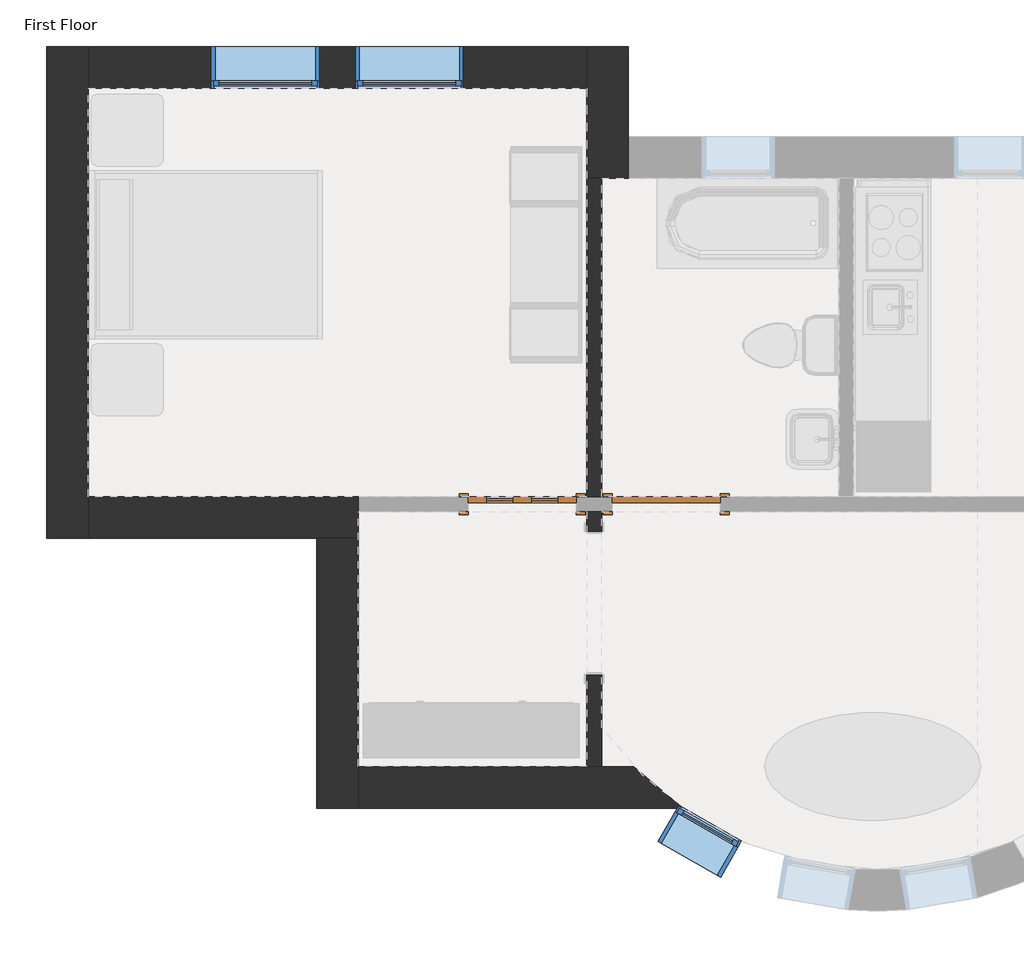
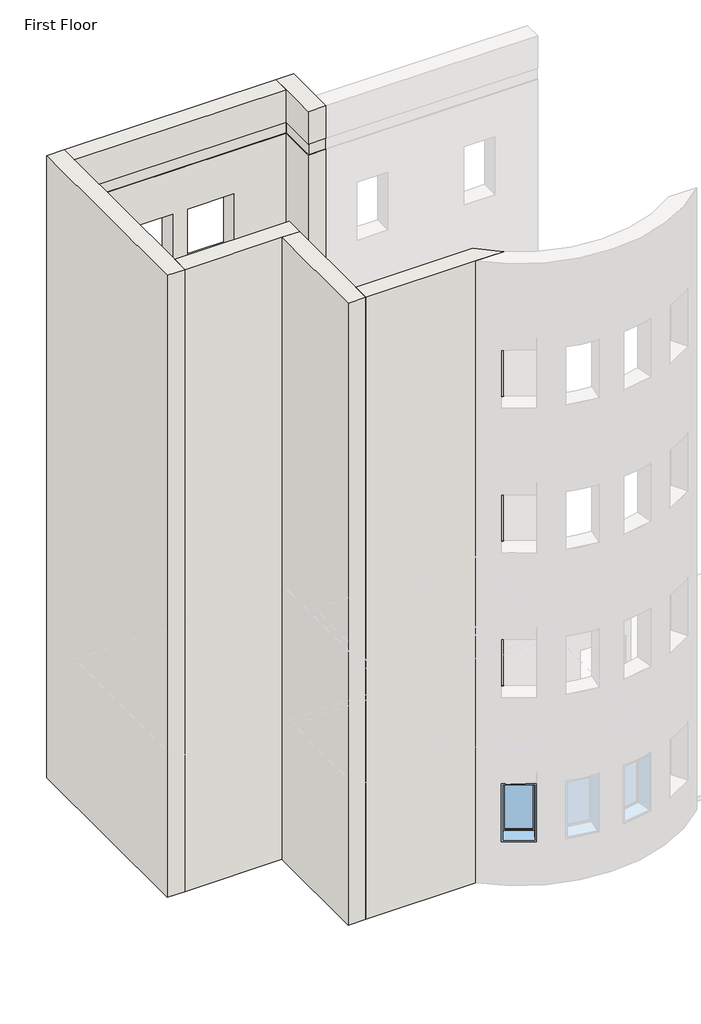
# One storey, part 1 of 3: 8 walls, 3 windows, 2 doors.
"""IFC4 building model written with IfcOpenShell, lengths in millimetres."""

import ifcopenshell
import ifcopenshell.guid

model = None  # the IFC model being written
_history = None  # IfcOwnerHistory: only IFC2X3 demands one
_inside = {}  # id of a spatial element -> (the spatial element, [elements in it])
_under = {}  # id of a project, library or spatial element -> (it, [spatial elements below it])
_declared = {}  # id of a project -> (the project, [libraries it declares])
_typed = {}  # id of a type object -> (the type object, [elements of that type])
_made_of = {}  # id of a material, layer set ... -> (it, [elements and type objects made of it])


def new_model(schema):
    """Start an empty IFC model of exactly this schema.

    Asked for "IFC4X3", IfcOpenShell would pick the latest addendum, in which some entities
    have other attributes; the version numbers below select the first issue.
    IFC2X3 requires an IfcOwnerHistory on every rooted entity: one is made here for all.
    """
    global model, _history
    if schema == "IFC4X3":
        model = ifcopenshell.file(schema_version=(4, 3, 0, 0))
    else:
        model = ifcopenshell.file(schema=schema)
    _inside.clear()
    _under.clear()
    _declared.clear()
    _typed.clear()
    _made_of.clear()
    _history = None
    if model.schema == "IFC2X3":
        org = make("IfcOrganization", Name="unknown")
        user = make(
            "IfcPersonAndOrganization",
            ThePerson=make("IfcPerson", FamilyName="unknown"),
            TheOrganization=org,
        )
        app = make(
            "IfcApplication",
            ApplicationDeveloper=org,
            Version="unknown",
            ApplicationFullName="unknown",
            ApplicationIdentifier="unknown",
        )
        _history = make(
            "IfcOwnerHistory",
            OwningUser=user,
            OwningApplication=app,
            ChangeAction="ADDED",
            CreationDate=0,
        )
    return model


def make(cls, **values):
    """One entity of the class cls with the attributes given. An attribute that is None is left unset."""
    return model.create_entity(
        cls, **{name: value for name, value in values.items() if value is not None}
    )


def rooted(cls, **values):
    """An entity with a GlobalId (a new one), such as an element, a storey or a relation."""
    return make(cls, GlobalId=ifcopenshell.guid.new(), OwnerHistory=_history, **values)


def si_unit(unit_type, name, prefix=None):
    """IfcSIUnit, for example si_unit("LENGTHUNIT", "METRE", prefix="MILLI")."""
    return make("IfcSIUnit", UnitType=unit_type, Prefix=prefix, Name=name)


def assignment(units):
    """IfcUnitAssignment: the units of a project."""
    return None if units is None else make("IfcUnitAssignment", Units=units)


def point(xyz):
    """IfcCartesianPoint."""
    return None if xyz is None else make("IfcCartesianPoint", Coordinates=xyz)


def direction(xyz):
    """IfcDirection."""
    return None if xyz is None else make("IfcDirection", DirectionRatios=xyz)


def frame(location, z_axis=None, x_axis=None):
    """IfcAxis2Placement3D, a coordinate frame: its origin and axes. An axis left out is left unset."""
    return make(
        "IfcAxis2Placement3D",
        Location=point(location),
        Axis=direction(z_axis),
        RefDirection=direction(x_axis),
    )


def frame_2d(location, x_axis=None):
    """IfcAxis2Placement2D, a coordinate frame in the plane: its origin and x axis."""
    return make(
        "IfcAxis2Placement2D", Location=point(location), RefDirection=direction(x_axis)
    )


def origin():
    """The frame at (0, 0, 0) with its axes left unset."""
    return frame((0.0, 0.0, 0.0))


def origin_with_axes():
    """The frame at (0, 0, 0) with the z axis (0, 0, 1) and the x axis (1, 0, 0) written out."""
    return frame((0.0, 0.0, 0.0), z_axis=(0.0, 0.0, 1.0), x_axis=(1.0, 0.0, 0.0))


def place(relative_to, where):
    """IfcLocalPlacement: puts the frame where relative to a parent placement (None: the world)."""
    return make(
        "IfcLocalPlacement", PlacementRelTo=relative_to, RelativePlacement=where
    )


def context(
    kind, dimensions, precision=None, world=None, true_north=None, identifier=None
):
    """IfcGeometricRepresentationContext, for example the 3D "Model" context."""
    return make(
        "IfcGeometricRepresentationContext",
        ContextIdentifier=identifier,
        ContextType=kind,
        CoordinateSpaceDimension=dimensions,
        Precision=precision,
        WorldCoordinateSystem=world,
        TrueNorth=true_north,
    )


def project(units=None, contexts=None):
    """IfcProject with its units and contexts."""
    return rooted(
        "IfcProject",
        Name="project",
        RepresentationContexts=contexts,
        UnitsInContext=assignment(units),
    )


def spatial(cls, under=None, at=None, **own):
    """A site, building, storey or space (cls), placed at a placement, below another one or the project."""
    s = rooted(cls, ObjectPlacement=at, **own)
    if under is not None:
        _under.setdefault(under.id(), (under, []))[1].append(s)
    return s


def polyline(points):
    """IfcPolyline through the points."""
    return make("IfcPolyline", Points=[point(p) for p in points])


def circle_curve(where, radius):
    """IfcCircle in the frame where."""
    return make("IfcCircle", Position=where, Radius=radius)


def trimmed(basis, trim1, trim2, sense, master):
    """IfcTrimmedCurve: the piece of a basis curve between two trims."""
    return make(
        "IfcTrimmedCurve",
        BasisCurve=basis,
        Trim1=trim1,
        Trim2=trim2,
        SenseAgreement=sense,
        MasterRepresentation=master,
    )


def segment(curve, same_sense, transition):
    """IfcCompositeCurveSegment."""
    return make(
        "IfcCompositeCurveSegment",
        Transition=transition,
        SameSense=same_sense,
        ParentCurve=curve,
    )


def composite_curve(segments, self_intersect=None):
    """IfcCompositeCurve: segments joined end to end."""
    return make("IfcCompositeCurve", Segments=segments, SelfIntersect=self_intersect)


def outline(outer, holes=None, kind="AREA"):
    """IfcArbitraryClosedProfileDef: a profile drawn as a closed curve; with holes, ...WithVoids."""
    if holes is None:
        return make("IfcArbitraryClosedProfileDef", ProfileType=kind, OuterCurve=outer)
    return make(
        "IfcArbitraryProfileDefWithVoids",
        ProfileType=kind,
        OuterCurve=outer,
        InnerCurves=holes,
    )


def extrude(swept, where, along, depth):
    """IfcExtrudedAreaSolid: the profile swept, set in the frame where, extruded along a direction by depth."""
    return make(
        "IfcExtrudedAreaSolid",
        SweptArea=swept,
        Position=where,
        ExtrudedDirection=direction(along),
        Depth=depth,
    )


def faces_of(points, faces, orient=None, outer=None):
    """IfcFace entities. A face is a list of loops; a loop is a list of indices into points, from 0.

    orient and outer hold one flag for each loop. By default every Orientation is true, the
    first loop of a face is its IfcFaceOuterBound and the others are IfcFaceBound.
    """
    made = []
    for i, loops in enumerate(faces):
        bounds = []
        for j, loop in enumerate(loops):
            is_outer = j == 0 if outer is None else outer[i][j]
            bounds.append(
                make(
                    "IfcFaceOuterBound" if is_outer else "IfcFaceBound",
                    Bound=make("IfcPolyLoop", Polygon=[points[k] for k in loop]),
                    Orientation=True if orient is None else orient[i][j],
                )
            )
        made.append(make("IfcFace", Bounds=bounds))
    return made


def faceted_brep(points, faces, orient=None, outer=None, voids=None):
    """IfcFacetedBrep: a solid bounded by flat faces; with voids (closed shells), ...WithVoids."""
    shared = [point(p) for p in points]
    hull = make("IfcClosedShell", CfsFaces=faces_of(shared, faces, orient, outer))
    if voids is None:
        return make("IfcFacetedBrep", Outer=hull)
    return make(
        "IfcFacetedBrepWithVoids",
        Outer=hull,
        Voids=[
            make(cls, CfsFaces=faces_of(shared, fs, o, b)) for cls, fs, o, b in voids
        ],
    )


def shape(context_of_items, identifier, shape_type, items):
    """IfcShapeRepresentation: the items that make up one representation, for example the "Body"."""
    return make(
        "IfcShapeRepresentation",
        ContextOfItems=context_of_items,
        RepresentationIdentifier=identifier,
        RepresentationType=shape_type,
        Items=items,
    )


def source(mapping_origin, context_of_items, identifier, shape_type, items):
    """IfcRepresentationMap: a shape defined once, which mapped items show again and again."""
    return make(
        "IfcRepresentationMap",
        MappingOrigin=mapping_origin,
        MappedRepresentation=shape(context_of_items, identifier, shape_type, items),
    )


def transform(
    local_origin,
    x_axis=None,
    y_axis=None,
    z_axis=None,
    scale=None,
    scale2=None,
    scale3=None,
    uniform=True,
):
    """IfcCartesianTransformationOperator3D, or its non-uniform kind. x_axis, y_axis, z_axis: its Axis1, 2, 3."""
    if uniform:
        return make(
            "IfcCartesianTransformationOperator3D",
            Axis1=direction(x_axis),
            Axis2=direction(y_axis),
            LocalOrigin=point(local_origin),
            Scale=scale,
            Axis3=direction(z_axis),
        )
    return make(
        "IfcCartesianTransformationOperator3DnonUniform",
        Axis1=direction(x_axis),
        Axis2=direction(y_axis),
        LocalOrigin=point(local_origin),
        Scale=scale,
        Axis3=direction(z_axis),
        Scale2=scale2,
        Scale3=scale3,
    )


def mapped(mapping_source, mapping_target):
    """IfcMappedItem: shows the shape of a source again, moved by a transform."""
    return make(
        "IfcMappedItem", MappingSource=mapping_source, MappingTarget=mapping_target
    )


def made_of(thing, what):
    """Note that an element or type object is made of a material, layer set ...; save() writes the relation."""
    if what is not None:
        _made_of.setdefault(what.id(), (what, []))[1].append(thing)
    return thing


def element(
    cls,
    number,
    at=None,
    inside=None,
    cuts=None,
    type_object=None,
    material=None,
    context=None,
    identifier="Body",
    shape_type=None,
    held_by="IfcProductDefinitionShape",
    body=None,
    shapes=None,
    **own,
):
    """One element of the class cls, such as IfcWall. Its Tag is "e" and its number.

    at: its placement. inside: the storey or other place that contains it. cuts: it is an
    opening in that element (IfcRelVoidsElement). A single representation is given by context,
    identifier, shape_type and body (its items); several are given by shapes. held_by: the class
    of the entity that holds the representations. save() writes the other relations.
    """
    e = rooted(cls, Tag="e%d" % number, ObjectPlacement=at, **own)
    if body is not None:
        shapes = [shape(context, identifier, shape_type, body)]
    if shapes is not None:
        e.Representation = make(held_by, Representations=shapes)
    if inside is not None:
        _inside.setdefault(inside.id(), (inside, []))[1].append(e)
    if cuts is not None:
        rooted(
            "IfcRelVoidsElement", RelatingBuildingElement=cuts, RelatedOpeningElement=e
        )
    if type_object is not None:
        _typed.setdefault(type_object.id(), (type_object, []))[1].append(e)
    return made_of(e, material)


def aggregate(whole, parts):
    """IfcRelAggregates: a whole, such as a stair, and the parts it consists of."""
    return rooted("IfcRelAggregates", RelatingObject=whole, RelatedObjects=parts)


def save(model, path):
    """Write the relations noted so far, then the file.

    IfcRelAggregates (storeys below a building ...), IfcRelContainedInSpatialStructure (elements
    in a storey), IfcRelDefinesByType, IfcRelAssociatesMaterial and IfcRelDeclares: one each for
    every whole, place, type object, material and project.
    """
    for whole, parts in _under.values():
        aggregate(whole, parts)
    for where, things in _inside.values():
        rooted(
            "IfcRelContainedInSpatialStructure",
            RelatedElements=things,
            RelatingStructure=where,
        )
    for kind, things in _typed.values():
        rooted("IfcRelDefinesByType", RelatedObjects=things, RelatingType=kind)
    for what, things in _made_of.values():
        rooted("IfcRelAssociatesMaterial", RelatedObjects=things, RelatingMaterial=what)
    for by, libraries in _declared.values():
        rooted("IfcRelDeclares", RelatingContext=by, RelatedDefinitions=libraries)
    model.write(path)


def plane_surface(at):
    """IfcPlane: the flat surface through the origin of the frame at, square to its z axis."""
    return make("IfcPlane", Position=at)


def revolved_surface(curve, axis_point, axis_direction):
    """IfcSurfaceOfRevolution: the curve turned about the line through axis_point along axis_direction."""
    return make(
        "IfcSurfaceOfRevolution",
        SweptCurve=make("IfcArbitraryOpenProfileDef", ProfileType="CURVE", Curve=curve),
        AxisPosition=make("IfcAxis1Placement", Location=point(axis_point), Axis=direction(axis_direction)),
    )


def advanced_brep(points, edges, surfaces, faces):
    """IfcAdvancedBrep: a solid bounded by faces that lie on surfaces and meet in shared edges.

    An edge is (start, end): straight between two places in points (the first is 0);
    or (start, end, curve); or (start, end, curve, False) where it runs against its curve.
    A face is (place in surfaces, loops), or (place, loops, False) where it looks against
    its surface's normal. A loop lists edges by number (the first is 1), with a minus sign
    where the edge is run from its end to its start. The first loop is the outer one.
    """
    corners = [point(p) for p in points]
    vertices = [make("IfcVertexPoint", VertexGeometry=c) for c in corners]
    made = []
    for start, end, *more in edges:
        made.append(
            make(
                "IfcEdgeCurve",
                EdgeStart=vertices[start],
                EdgeEnd=vertices[end],
                EdgeGeometry=more[0] if more else make("IfcPolyline", Points=[corners[start], corners[end]]),
                SameSense=more[1] if len(more) > 1 else True,
            )
        )
    hull = []
    for where, loops, *sense in faces:
        bounds = []
        for j, loop in enumerate(loops):
            ring = [make("IfcOrientedEdge", EdgeElement=made[abs(k) - 1], Orientation=k > 0) for k in loop]
            bounds.append(
                make(
                    "IfcFaceOuterBound" if j == 0 else "IfcFaceBound",
                    Bound=make("IfcEdgeLoop", EdgeList=ring),
                    Orientation=True,
                )
            )
        hull.append(make("IfcAdvancedFace", Bounds=bounds, FaceSurface=surfaces[where], SameSense=sense[0] if sense else True))
    return make("IfcAdvancedBrep", Outer=make("IfcClosedShell", CfsFaces=hull))


def door_2e3b4da2(model_context):
    return source(origin(), model_context, "Body", "SweptSolid", [
        extrude(outline(polyline([(0.0, -457.2), (0.0, 457.2), (2133.6, 457.2), (2133.6, -457.2), (0.0, -457.2)]), holes=[polyline([(254.0, -76.2), (254.0, -304.8), (1219.2, -304.8), (1219.2, -76.2), (254.0, -76.2)]), polyline([(254.0, 304.8), (254.0, 76.2), (1219.2, 76.2), (1219.2, 304.8), (254.0, 304.8)]), polyline([(1371.6, 76.2), (1574.8, 76.2), (1574.8, 304.8), (1371.6, 304.8), (1371.6, 76.2)]), polyline([(1371.6, -304.8), (1574.8, -304.8), (1574.8, -76.2), (1371.6, -76.2), (1371.6, -304.8)]), composite_curve([segment(polyline([(1727.2, 304.8), (1727.2, -304.8)]), True, "CONTINUOUS"), segment(trimmed(circle_curve(frame_2d((1727.2, 0.0)), 304.8), [point((1727.2, -304.8))], [point((1727.2, 304.8))], True, "CARTESIAN"), True, "CONTINUOUS")], self_intersect=False)]), frame((0.0, 12.7, 0.0), z_axis=(0.0, 1.0, 0.0), x_axis=(0.0, 0.0, 1.0)), (0.0, 0.0, 1.0), 50.8),
        extrude(outline(polyline([(0.0, 457.2), (0.0, 533.4), (2209.8, 533.4), (2209.8, -533.4), (0.0, -533.4), (0.0, -457.2), (2133.6, -457.2), (2133.6, 457.2), (0.0, 457.2)])), frame((0.0, -88.9, 0.0), z_axis=(0.0, 1.0, 0.0), x_axis=(0.0, 0.0, 1.0)), (0.0, 0.0, 1.0), 25.4),
        extrude(outline(polyline([(2209.8, -533.4), (0.0, -533.4), (0.0, -457.2), (2133.6, -457.2), (2133.6, 457.2), (0.0, 457.2), (0.0, 533.4), (2209.8, 533.4), (2209.8, -533.4)])), frame((0.0, 63.5, 0.0), z_axis=(0.0, 1.0, 0.0), x_axis=(0.0, 0.0, 1.0)), (0.0, 0.0, 1.0), 25.4),
        extrude(outline(composite_curve([segment(polyline([(1727.2, -304.8), (1727.2, 304.8)]), True, "CONTINUOUS"), segment(trimmed(circle_curve(frame_2d((1727.2, 0.0)), 304.8), [point((1727.2, 304.8))], [point((1727.2, -304.8))], False, "CARTESIAN"), True, "CONTINUOUS")], self_intersect=False)), frame((0.0, 29.6333333, 0.0), z_axis=(0.0, 1.0, 0.0), x_axis=(0.0, 0.0, 1.0)), (0.0, 0.0, 1.0), 16.9333333),
        extrude(outline(polyline([(-304.8, 46.5666667), (-76.2, 46.5666667), (-76.2, 29.6333333), (-304.8, 29.6333333), (-304.8, 46.5666667)])), frame((0.0, 0.0, 254.0), z_axis=(0.0, 0.0, 1.0), x_axis=(1.0, 0.0, 0.0)), (0.0, 0.0, 1.0), 965.2),
        extrude(outline(polyline([(76.2, 46.5666667), (304.8, 46.5666667), (304.8, 29.6333333), (76.2, 29.6333333), (76.2, 46.5666667)])), frame((0.0, 0.0, 254.0), z_axis=(0.0, 0.0, 1.0), x_axis=(1.0, 0.0, 0.0)), (0.0, 0.0, 1.0), 965.2),
        extrude(outline(polyline([(76.2, 46.5666667), (304.8, 46.5666667), (304.8, 29.6333333), (76.2, 29.6333333), (76.2, 46.5666667)])), frame((0.0, 0.0, 1371.6), z_axis=(0.0, 0.0, 1.0), x_axis=(1.0, 0.0, 0.0)), (0.0, 0.0, 1.0), 203.2),
        extrude(outline(polyline([(-304.8, 46.5666667), (-76.2, 46.5666667), (-76.2, 29.6333333), (-304.8, 29.6333333), (-304.8, 46.5666667)])), frame((0.0, 0.0, 1371.6), z_axis=(0.0, 0.0, 1.0), x_axis=(1.0, 0.0, 0.0)), (0.0, 0.0, 1.0), 203.2),
    ])


def door_a3eb833a(model_context):
    return source(origin(), model_context, "Body", "SweptSolid", [
        extrude(outline(polyline([(2209.8, -533.4), (0.0, -533.4), (0.0, -457.2), (2133.6, -457.2), (2133.6, 457.2), (0.0, 457.2), (0.0, 533.4), (2209.8, 533.4), (2209.8, -533.4)])), frame((0.0, -88.9, 0.0), z_axis=(0.0, 1.0, 0.0), x_axis=(0.0, 0.0, 1.0)), (0.0, 0.0, 1.0), 25.4),
        extrude(outline(polyline([(2209.8, 533.4), (2209.8, -533.4), (0.0, -533.4), (0.0, -457.2), (2133.6, -457.2), (2133.6, 457.2), (0.0, 457.2), (0.0, 533.4), (2209.8, 533.4)])), frame((0.0, 63.5, 0.0), z_axis=(0.0, 1.0, 0.0), x_axis=(0.0, 0.0, 1.0)), (0.0, 0.0, 1.0), 25.4),
        extrude(outline(polyline([(457.2, -12.7), (457.2, -63.5), (-457.2, -63.5), (-457.2, -12.7), (457.2, -12.7)])), origin_with_axes(), (0.0, 0.0, 1.0), 2133.6),
    ])


def window_60baf983(model_context):
    return source(origin(), model_context, "Body", "SweptSolid", [
        extrude(outline(polyline([(203.2, 128.5875), (-279.4, 128.5875), (-279.4, 141.2875), (203.2, 141.2875), (203.2, 128.5875)])), frame((0.0, 0.0, 977.9), z_axis=(0.0, 0.0, 1.0), x_axis=(1.0, 0.0, 0.0)), (0.0, 0.0, 1.0), 1092.2),
        extrude(outline(polyline([(2114.55, -323.85), (933.45, -323.85), (933.45, 247.65), (2114.55, 247.65), (2114.55, -323.85)]), holes=[polyline([(2070.1, -279.4), (2070.1, 203.2), (977.9, 203.2), (977.9, -279.4), (2070.1, -279.4)])]), frame((0.0, 112.7125, 0.0), z_axis=(0.0, 1.0, 0.0), x_axis=(0.0, 0.0, 1.0)), (0.0, 0.0, 1.0), 44.45),
        extrude(outline(polyline([(2133.6, -342.9), (914.4, -342.9), (914.4, 266.7), (2133.6, 266.7), (2133.6, -342.9)]), holes=[polyline([(2101.85, -311.15), (2101.85, 234.95), (946.15, 234.95), (946.15, -311.15), (2101.85, -311.15)])]), frame((0.0, -176.2125, 0.0), z_axis=(0.0, 1.0, 0.0), x_axis=(0.0, 0.0, 1.0)), (0.0, 0.0, 1.0), 288.925),
        extrude(outline(polyline([(2133.6, 266.7), (2133.6, -342.9), (914.4, -342.9), (914.4, 266.7), (2133.6, 266.7)]), holes=[polyline([(2114.55, 247.65), (933.45, 247.65), (933.45, -323.85), (2114.55, -323.85), (2114.55, 247.65)])]), frame((0.0, 112.7125, 0.0), z_axis=(0.0, 1.0, 0.0), x_axis=(0.0, 0.0, 1.0)), (0.0, 0.0, 1.0), 63.5),
    ])


def window_15c49d37(model_context):
    return source(origin(), model_context, "Body", "SweptSolid", [
        extrude(outline(polyline([(355.6, 128.5875), (-431.8, 128.5875), (-431.8, 141.2875), (355.6, 141.2875), (355.6, 128.5875)])), frame((0.0, 0.0, 977.9), z_axis=(0.0, 0.0, 1.0), x_axis=(1.0, 0.0, 0.0)), (0.0, 0.0, 1.0), 1092.2),
        extrude(outline(polyline([(2114.55, -476.25), (933.45, -476.25), (933.45, 400.05), (2114.55, 400.05), (2114.55, -476.25)]), holes=[polyline([(2070.1, -431.8), (2070.1, 355.6), (977.9, 355.6), (977.9, -431.8), (2070.1, -431.8)])]), frame((0.0, 112.7125, 0.0), z_axis=(0.0, 1.0, 0.0), x_axis=(0.0, 0.0, 1.0)), (0.0, 0.0, 1.0), 44.45),
        extrude(outline(polyline([(2133.6, -495.3), (914.4, -495.3), (914.4, 419.1), (2133.6, 419.1), (2133.6, -495.3)]), holes=[polyline([(2101.85, -463.55), (2101.85, 387.35), (946.15, 387.35), (946.15, -463.55), (2101.85, -463.55)])]), frame((0.0, -176.2125, 0.0), z_axis=(0.0, 1.0, 0.0), x_axis=(0.0, 0.0, 1.0)), (0.0, 0.0, 1.0), 288.925),
        extrude(outline(polyline([(2133.6, 419.1), (2133.6, -495.3), (914.4, -495.3), (914.4, 419.1), (2133.6, 419.1)]), holes=[polyline([(2114.55, 400.05), (933.45, 400.05), (933.45, -476.25), (2114.55, -476.25), (2114.55, 400.05)])]), frame((0.0, 112.7125, 0.0), z_axis=(0.0, 1.0, 0.0), x_axis=(0.0, 0.0, 1.0)), (0.0, 0.0, 1.0), 63.5),
    ])


model = new_model("IFC4")

# Units and contexts
model_context = context("Model", 3, world=origin())
ifc_project = project(units=[si_unit("LENGTHUNIT", "METRE", prefix="MILLI")], contexts=[model_context])

# Site, building, storey
site = spatial("IfcSite", under=ifc_project)
building = spatial("IfcBuilding", under=site)
storey = spatial("IfcBuildingStorey", under=building, Name="First Floor", Elevation=0.0)

# Doors
placement = place(None, origin())
door_shape = door_2e3b4da2(model_context)
element("IfcDoor", 1, ObjectType="Single-Decorative 2 : 36\" x 84\"", at=placement, inside=storey, context=model_context, shape_type="MappedRepresentation", body=[
    mapped(door_shape, transform((-1342.3404149, 8869.7132581, 0.0), x_axis=(1.0, 0.0, 0.0), y_axis=(0.0, 1.0, 0.0), z_axis=(0.0, 0.0, 1.0))),
])
door_2_shape = door_a3eb833a(model_context)
element("IfcDoor", 2, ObjectType="Single-Flush : 36\" x 84\"", at=placement, inside=storey, context=model_context, shape_type="MappedRepresentation", body=[
    mapped(door_2_shape, transform((-123.1404149, 8869.7132581, 0.0), x_axis=(-1.0, 0.0, 0.0), y_axis=(0.0, -1.0, 0.0), z_axis=(0.0, 0.0, 1.0))),
])

# Walls
element("IfcWall", 3, ObjectType="Exterior - Brick on Mtl. Stud", at=placement, inside=storey, context=model_context, shape_type="Brep", body=[
    faceted_brep([(-5368.2404149, 12743.2132581, 0.0), (-5368.2404149, 8580.7882581, 0.0), (-5368.2404149, 8580.7882581, 13106.4), (-5368.2404149, 12743.2132581, 13106.4), (-5015.8154149, 8580.7882581, 0.0), (-5015.8154149, 8933.2132581, 0.0), (-5015.8154149, 12390.7882581, 0.0), (-5015.8154149, 12743.2132581, 0.0), (-5015.8154149, 12743.2132581, 13106.4), (-5015.8154149, 12390.7882581, 13106.4), (-5015.8154149, 8933.2132581, 13106.4), (-5015.8154149, 8580.7882581, 13106.4), (-5015.8154149, 12403.4882581, 12192.0), (-5015.8154149, 12390.7882581, 12192.0), (-5015.8154149, 8933.2132581, 12192.0), (-5015.8154149, 8920.5132581, 12192.0), (-5015.8154149, 8920.5132581, 12420.6), (-5015.8154149, 8933.2132581, 12420.6), (-5015.8154149, 12390.7882581, 12420.6), (-5015.8154149, 12403.4882581, 12420.6), (-5028.5154149, 12403.4882581, 12192.0), (-5028.5154149, 8920.5132581, 12192.0), (-5028.5154149, 8920.5132581, 12420.6), (-5028.5154149, 12403.4882581, 12420.6)], [[[0, 1, 2, 3]], [[4, 5, 6, 7, 8, 9, 10, 11], [12, 13, 14, 15, 16, 17, 18, 19]], [[1, 0, 7, 6, 5, 4]], [[3, 2, 11, 10, 9, 8]], [[2, 1, 4, 11]], [[0, 3, 8, 7]], [[20, 21, 15, 14, 13, 12]], [[22, 23, 19, 18, 17, 16]], [[21, 20, 23, 22]], [[23, 20, 12, 19]], [[21, 22, 16, 15]]]),
])
element("IfcWall", 4, ObjectType="Exterior - Brick on Mtl. Stud", at=placement, inside=storey, context=model_context, shape_type="Brep", body=[
    faceted_brep([(-5015.8154149, 8580.7882581, 0.0), (-3082.2404149, 8580.7882581, 0.0), (-2729.8154149, 8580.7882581, 0.0), (-2729.8154149, 8580.7882581, 12192.0), (-2742.5154149, 8580.7882581, 12192.0), (-2742.5154149, 8580.7882581, 12420.6), (-2729.8154149, 8580.7882581, 12420.6), (-2729.8154149, 8580.7882581, 13106.4), (-3082.2404149, 8580.7882581, 13106.4), (-5015.8154149, 8580.7882581, 13106.4), (-2729.8154149, 8933.2132581, 0.0), (-5015.8154149, 8933.2132581, 0.0), (-5015.8154149, 8933.2132581, 12192.0), (-2729.8154149, 8933.2132581, 12192.0), (-5015.8154149, 8933.2132581, 13106.4), (-2729.8154149, 8933.2132581, 13106.4), (-2729.8154149, 8933.2132581, 12420.6), (-5015.8154149, 8933.2132581, 12420.6), (-5015.8154149, 8920.5132581, 12420.6), (-5015.8154149, 8920.5132581, 12192.0), (-2742.5154149, 8920.5132581, 12192.0), (-2742.5154149, 8920.5132581, 12420.6)], [[[0, 1, 2, 3, 4, 5, 6, 7, 8, 9]], [[10, 11, 12, 13]], [[14, 15, 16, 17]], [[2, 1, 0, 11, 10]], [[9, 8, 7, 15, 14]], [[2, 10, 13, 3]], [[15, 7, 6, 16]], [[0, 9, 14, 17, 18, 19, 12, 11]], [[19, 20, 4, 3, 13, 12]], [[5, 21, 18, 17, 16, 6]], [[20, 21, 5, 4]], [[21, 20, 19, 18]]]),
])
element("IfcWall", 5, ObjectType="Exterior - Brick on Mtl. Stud", at=placement, inside=storey, context=model_context, shape_type="Brep", body=[
    faceted_brep([(-3082.2404149, 8580.7882581, 0.0), (-3082.2404149, 6294.7882581, 0.0), (-3082.2404149, 6294.7882581, 13106.4), (-3082.2404149, 8580.7882581, 13106.4), (-2729.8154149, 6294.7882581, 0.0), (-2729.8154149, 6647.2132581, 0.0), (-2729.8154149, 8580.7882581, 0.0), (-2729.8154149, 8580.7882581, 12192.0), (-2729.8154149, 6647.2132581, 12192.0), (-2729.8154149, 6634.5132581, 12192.0), (-2729.8154149, 6634.5132581, 12420.6), (-2729.8154149, 6647.2132581, 12420.6), (-2729.8154149, 8580.7882581, 12420.6), (-2729.8154149, 8580.7882581, 13106.4), (-2729.8154149, 6647.2132581, 13106.4), (-2729.8154149, 6294.7882581, 13106.4), (-2742.5154149, 8580.7882581, 12420.6), (-2742.5154149, 8580.7882581, 12192.0), (-2742.5154149, 6634.5132581, 12192.0), (-2742.5154149, 6634.5132581, 12420.6)], [[[0, 1, 2, 3]], [[4, 5, 6, 7, 8, 9, 10, 11, 12, 13, 14, 15]], [[1, 0, 6, 5, 4]], [[3, 2, 15, 14, 13]], [[2, 1, 4, 15]], [[0, 3, 13, 12, 16, 17, 7, 6]], [[17, 18, 9, 8, 7]], [[10, 19, 16, 12, 11]], [[18, 19, 10, 9]], [[19, 18, 17, 16]]]),
])
element("IfcWall", 6, ObjectType="Exterior - Brick on Mtl. Stud", at=placement, inside=storey, context=model_context, shape_type="AdvancedBrep", body=[
    advanced_brep(
    [(-2729.8154149, 6294.7882581, 0.0), (-538.4131488, 6294.7882581, 0.0), (19.4814354, 6294.7882581, 0.0), (19.4814354, 6294.7882581, 914.4), (-29.8068126, 6294.7882581, 914.4), (-29.8068126, 6294.7882581, 2133.6), (19.4814354, 6294.7882581, 2133.6), (19.4814354, 6294.7882581, 3962.4), (-29.8068126, 6294.7882581, 3962.4), (-29.8068126, 6294.7882581, 5181.6), (19.4814354, 6294.7882581, 5181.6), (19.4814354, 6294.7882581, 7010.4), (-29.8068126, 6294.7882581, 7010.4), (-29.8068126, 6294.7882581, 8229.6), (19.4814354, 6294.7882581, 8229.6), (19.4814354, 6294.7882581, 10058.4), (-29.8068126, 6294.7882581, 10058.4), (-29.8068126, 6294.7882581, 11277.6), (19.4814354, 6294.7882581, 11277.6), (19.4814354, 6294.7882581, 12192.0), (-289.0054857, 6294.7882581, 12192.0), (-289.0054857, 6294.7882581, 12420.6), (19.4814354, 6294.7882581, 12420.6), (19.4814354, 6294.7882581, 13106.4), (-538.4131488, 6294.7882581, 13106.4), (-2729.8154149, 6294.7882581, 13106.4), (-394.4122625, 6647.2132581, 0.0), (-669.2404149, 6647.2132581, 0.0), (-796.2404149, 6647.2132581, 0.0), (-2729.8154149, 6647.2132581, 0.0), (-2729.8154149, 6647.2132581, 12192.0), (-796.2404149, 6647.2132581, 12192.0), (-669.2404149, 6647.2132581, 12192.0), (-394.4122625, 6647.2132581, 12192.0), (-2729.8154149, 6647.2132581, 13106.4), (-394.4122625, 6647.2132581, 13106.4), (-394.4122625, 6647.2132581, 12420.6), (-2729.8154149, 6647.2132581, 12420.6), (11.5699336, 6300.3443098, 11277.6), (11.5699336, 6300.3443098, 10058.4), (11.5699336, 6300.3443098, 8229.6), (11.5699336, 6300.3443098, 7010.4), (11.5699336, 6300.3443098, 5181.6), (11.5699336, 6300.3443098, 3962.4), (11.5699336, 6300.3443098, 2133.6), (11.5699336, 6300.3443098, 914.4), (-2729.8154149, 6634.5132581, 12420.6), (-2729.8154149, 6634.5132581, 12192.0), (-17.2260808, 6316.8014694, 2133.6), (-17.2260808, 6316.8014694, 914.4), (-17.2260808, 6316.8014694, 11277.6), (-17.2260808, 6316.8014694, 10058.4), (-17.2260808, 6316.8014694, 5181.6), (-17.2260808, 6316.8014694, 3962.4), (-17.2260808, 6316.8014694, 8229.6), (-17.2260808, 6316.8014694, 7010.4), (-637.3332881, 6634.5132581, 12192.0), (-637.3332881, 6634.5132581, 12420.6)],
    [
        (0, 1),
        (1, 2),
        (2, 3),
        (3, 4),
        (4, 5),
        (5, 6),
        (6, 7),
        (7, 8),
        (8, 9),
        (9, 10),
        (10, 11),
        (11, 12),
        (12, 13),
        (13, 14),
        (14, 15),
        (15, 16),
        (16, 17),
        (17, 18),
        (18, 19),
        (19, 20),
        (20, 21),
        (21, 22),
        (22, 23),
        (23, 24),
        (24, 25),
        (25, 0),
        (26, 27),
        (27, 28),
        (28, 29),
        (29, 30),
        (30, 31),
        (31, 32),
        (32, 33),
        (33, 26),
        (34, 35),
        (35, 36),
        (36, 37),
        (37, 34),
        (0, 29),
        (26, 2, circle_curve(frame((1665.9720851, 8647.7081431, 0.0), z_axis=(0.0, 0.0, 1.0), x_axis=(1.0, 0.0, 0.0)), 2871.7875)),
        (23, 35, circle_curve(frame((1665.9720851, 8647.7081431, 13106.4), z_axis=(0.0, 0.0, -1.0), x_axis=(1.0, 0.0, 0.0)), 2871.7875)),
        (34, 25),
        (33, 19, circle_curve(frame((1665.9720851, 8647.7081431, 12192.0), z_axis=(0.0, 0.0, 1.0), x_axis=(1.0, 0.0, 0.0)), 2871.7875)),
        (18, 38, circle_curve(frame((1665.9720851, 8647.7081431, 11277.6), z_axis=(0.0, 0.0, -1.0), x_axis=(1.0, 0.0, 0.0)), 2871.7875)),
        (38, 39),
        (39, 15, circle_curve(frame((1665.9720851, 8647.7081431, 10058.4), z_axis=(0.0, 0.0, 1.0), x_axis=(1.0, 0.0, 0.0)), 2871.7875)),
        (14, 40, circle_curve(frame((1665.9720851, 8647.7081431, 8229.6), z_axis=(0.0, 0.0, -1.0), x_axis=(1.0, 0.0, 0.0)), 2871.7875)),
        (40, 41),
        (41, 11, circle_curve(frame((1665.9720851, 8647.7081431, 7010.4), z_axis=(0.0, 0.0, 1.0), x_axis=(1.0, 0.0, 0.0)), 2871.7875)),
        (10, 42, circle_curve(frame((1665.9720851, 8647.7081431, 5181.6), z_axis=(0.0, 0.0, -1.0), x_axis=(1.0, 0.0, 0.0)), 2871.7875)),
        (42, 43),
        (43, 7, circle_curve(frame((1665.9720851, 8647.7081431, 3962.4), z_axis=(0.0, 0.0, 1.0), x_axis=(1.0, 0.0, 0.0)), 2871.7875)),
        (6, 44, circle_curve(frame((1665.9720851, 8647.7081431, 2133.6), z_axis=(0.0, 0.0, -1.0), x_axis=(1.0, 0.0, 0.0)), 2871.7875)),
        (44, 45),
        (45, 3, circle_curve(frame((1665.9720851, 8647.7081431, 914.4), z_axis=(0.0, 0.0, 1.0), x_axis=(1.0, 0.0, 0.0)), 2871.7875)),
        (22, 36, circle_curve(frame((1665.9720851, 8647.7081431, 12420.6), z_axis=(0.0, 0.0, -1.0), x_axis=(1.0, 0.0, 0.0)), 2871.7875)),
        (37, 46),
        (46, 47),
        (47, 30),
        (48, 49),
        (49, 45),
        (44, 48),
        (49, 4),
        (48, 5),
        (50, 51),
        (51, 39),
        (38, 50),
        (51, 16),
        (50, 17),
        (52, 53),
        (53, 43),
        (42, 52),
        (53, 8),
        (52, 9),
        (54, 55),
        (55, 41),
        (40, 54),
        (55, 12),
        (54, 13),
        (47, 56),
        (56, 20, circle_curve(frame((1665.9720851, 8647.7081431, 12192.0), z_axis=(0.0, 0.0, 1.0), x_axis=(1.0, 0.0, 0.0)), 3059.1125)),
        (21, 57, circle_curve(frame((1665.9720851, 8647.7081431, 12420.6), z_axis=(0.0, 0.0, -1.0), x_axis=(1.0, 0.0, 0.0)), 3059.1125)),
        (57, 46),
        (56, 57),
    ],
    [
        plane_surface(frame((-2906.0279149, 6294.7882581, 0.0), z_axis=(0.0, -1.0, 0.0), x_axis=(1.0, 0.0, 0.0))),
        plane_surface(frame((-2906.0279149, 6647.2132581, 0.0), z_axis=(0.0, 1.0, 0.0), x_axis=(-1.0, 0.0, 0.0))),
        plane_surface(frame((-2906.0279149, 6294.7882581, 0.0), z_axis=(0.0, 0.0, -1.0), x_axis=(0.0, 1.0, 0.0))),
        plane_surface(frame((-467.6279149, 6294.7882581, 13106.4), z_axis=(0.0, 0.0, 1.0), x_axis=(0.0, 1.0, 0.0))),
        revolved_surface(polyline([(4537.7595851, 8647.7081431, 0.0), (4537.7595851, 8647.7081431, 12192.0)]), (1665.9720851, 8647.7081431, 0.0), (0.0, 0.0, -1.0)),
        revolved_surface(polyline([(4537.7595851, 8647.7081431, 12420.6), (4537.7595851, 8647.7081431, 13106.4)]), (1665.9720851, 8647.7081431, 0.0), (0.0, 0.0, -1.0)),
        plane_surface(frame((-2729.8154149, 8757.0007581, 0.0), z_axis=(-1.0, 0.0, 0.0), x_axis=(0.0, 1.0, 0.0))),
        plane_surface(frame((512.0367731, 6014.3233852, 2133.6), z_axis=(-0.49619108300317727, -0.8682133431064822, 0.0), x_axis=(0.0, 0.0, -1.0))),
        plane_surface(frame((512.0367731, 6014.3233852, 914.4), z_axis=(0.0, 0.0, 1.0), x_axis=(-0.4961910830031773, -0.8682133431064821, 0.0))),
        plane_surface(frame((-17.2260808, 6316.8014694, 914.4), z_axis=(0.8682133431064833, -0.4961910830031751, 0.0), x_axis=(-0.4961910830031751, -0.8682133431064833, 0.0))),
        plane_surface(frame((-17.2260808, 6316.8014694, 2133.6), z_axis=(0.0, 0.0, -1.0), x_axis=(-0.4961910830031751, -0.8682133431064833, 0.0))),
        plane_surface(frame((512.0367731, 6014.3233852, 11277.6), z_axis=(-0.4961910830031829, -0.868213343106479, 0.0), x_axis=(0.0, 0.0, -1.0))),
        plane_surface(frame((512.0367731, 6014.3233852, 10058.4), z_axis=(0.0, 0.0, 1.0000000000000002), x_axis=(-0.49619108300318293, -0.868213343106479, 0.0))),
        plane_surface(frame((-17.2260808, 6316.8014694, 10058.4), z_axis=(0.868213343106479, -0.49619108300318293, 0.0), x_axis=(-0.49619108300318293, -0.868213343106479, 0.0))),
        plane_surface(frame((-17.2260808, 6316.8014694, 11277.6), z_axis=(0.0, 0.0, -1.0000000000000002), x_axis=(-0.49619108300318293, -0.868213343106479, 0.0))),
        plane_surface(frame((512.0367731, 6014.3233852, 5181.6), z_axis=(-0.4961910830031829, -0.868213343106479, 0.0), x_axis=(0.0, 0.0, -1.0))),
        plane_surface(frame((512.0367731, 6014.3233852, 3962.4), z_axis=(0.0, 0.0, 1.0000000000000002), x_axis=(-0.49619108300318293, -0.868213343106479, 0.0))),
        plane_surface(frame((-17.2260808, 6316.8014694, 3962.4), z_axis=(0.868213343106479, -0.49619108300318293, 0.0), x_axis=(-0.49619108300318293, -0.868213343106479, 0.0))),
        plane_surface(frame((-17.2260808, 6316.8014694, 5181.6), z_axis=(0.0, 0.0, -1.0000000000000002), x_axis=(-0.49619108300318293, -0.868213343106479, 0.0))),
        plane_surface(frame((512.0367731, 6014.3233852, 8229.6), z_axis=(-0.4961910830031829, -0.868213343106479, 0.0), x_axis=(0.0, 0.0, -1.0))),
        plane_surface(frame((512.0367731, 6014.3233852, 7010.4), z_axis=(0.0, 0.0, 1.0000000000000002), x_axis=(-0.49619108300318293, -0.868213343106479, 0.0))),
        plane_surface(frame((-17.2260808, 6316.8014694, 7010.4), z_axis=(0.868213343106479, -0.49619108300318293, 0.0), x_axis=(-0.49619108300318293, -0.868213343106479, 0.0))),
        plane_surface(frame((-17.2260808, 6316.8014694, 8229.6), z_axis=(0.0, 0.0, -1.0000000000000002), x_axis=(-0.49619108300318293, -0.868213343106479, 0.0))),
        plane_surface(frame((-5028.5154149, 12403.4882581, 12192.0), z_axis=(0.0, 0.0, 1.0), x_axis=(1.0, 0.0, 0.0))),
        plane_surface(frame((-5028.5154149, 12403.4882581, 12420.6), z_axis=(0.0, 0.0, -1.0), x_axis=(1.0, 0.0, 0.0))),
        revolved_surface(polyline([(4725.0845851, 8647.7081431, 12420.6), (4725.0845851, 8647.7081431, 12192.0)]), (1665.9720851, 8647.7081431, 12192.0), (0.0, 0.0, 1.0)),
        plane_surface(frame((-2742.5154149, 6634.5132581, 12192.0), z_axis=(0.0, 1.0, 0.0), x_axis=(1.0, 0.0, 0.0))),
    ],
    [
        (0, [[1, 2, 3, 4, 5, 6, 7, 8, 9, 10, 11, 12, 13, 14, 15, 16, 17, 18, 19, 20, 21, 22, 23, 24, 25, 26]]),
        (1, [[27, 28, 29, 30, 31, 32, 33, 34]]),
        (1, [[35, 36, 37, 38]]),
        (2, [[-2, -1, 39, -29, -28, -27, 40]]),
        (3, [[-25, -24, 41, -35, 42]]),
        (4, [[-40, -34, 43, -19, 44, 45, 46, -15, 47, 48, 49, -11, 50, 51, 52, -7, 53, 54, 55, -3]]),
        (5, [[-41, -23, 56, -36]]),
        (6, [[-26, -42, -38, 57, 58, 59, -30, -39]]),
        (7, [[60, 61, -54, 62]]),
        (8, [[63, -4, -55, -61]]),
        (9, [[-60, 64, -5, -63]]),
        (10, [[-64, -62, -53, -6]]),
        (11, [[65, 66, -45, 67]]),
        (12, [[68, -16, -46, -66]]),
        (13, [[-65, 69, -17, -68]]),
        (14, [[-69, -67, -44, -18]]),
        (15, [[70, 71, -51, 72]]),
        (16, [[73, -8, -52, -71]]),
        (17, [[-70, 74, -9, -73]]),
        (18, [[-74, -72, -50, -10]]),
        (19, [[75, 76, -48, 77]]),
        (20, [[78, -12, -49, -76]]),
        (21, [[-75, 79, -13, -78]]),
        (22, [[-79, -77, -47, -14]]),
        (23, [[80, 81, -20, -43, -33, -32, -31, -59]]),
        (24, [[82, 83, -57, -37, -56, -22]]),
        (25, [[84, -82, -21, -81]]),
        (26, [[-84, -80, -58, -83]]),
    ],
),
])
element("IfcWall", 7, ObjectType="Exterior - Brick on Mtl. Stud", at=placement, inside=storey, context=model_context, shape_type="Brep", body=[
    faceted_brep([(-5015.8154149, 12390.7882581, 0.0), (-796.2404149, 12390.7882581, 0.0), (-796.2404149, 12390.7882581, 12192.0), (-5015.8154149, 12390.7882581, 12192.0), (-3972.8279149, 12390.7882581, 914.4), (-3972.8279149, 12390.7882581, 2133.6), (-3058.4279149, 12390.7882581, 2133.6), (-3058.4279149, 12390.7882581, 914.4), (-2753.6279149, 12390.7882581, 914.4), (-2753.6279149, 12390.7882581, 2133.6), (-1839.2279149, 12390.7882581, 2133.6), (-1839.2279149, 12390.7882581, 914.4), (-3972.8279149, 12390.7882581, 10058.4), (-3972.8279149, 12390.7882581, 11277.6), (-3058.4279149, 12390.7882581, 11277.6), (-3058.4279149, 12390.7882581, 10058.4), (-2753.6279149, 12390.7882581, 10058.4), (-2753.6279149, 12390.7882581, 11277.6), (-1839.2279149, 12390.7882581, 11277.6), (-1839.2279149, 12390.7882581, 10058.4), (-3972.8279149, 12390.7882581, 3962.4), (-3972.8279149, 12390.7882581, 5181.6), (-3058.4279149, 12390.7882581, 5181.6), (-3058.4279149, 12390.7882581, 3962.4), (-2753.6279149, 12390.7882581, 3962.4), (-2753.6279149, 12390.7882581, 5181.6), (-1839.2279149, 12390.7882581, 5181.6), (-1839.2279149, 12390.7882581, 3962.4), (-3972.8279149, 12390.7882581, 7010.4), (-3972.8279149, 12390.7882581, 8229.6), (-3058.4279149, 12390.7882581, 8229.6), (-3058.4279149, 12390.7882581, 7010.4), (-2753.6279149, 12390.7882581, 7010.4), (-2753.6279149, 12390.7882581, 8229.6), (-1839.2279149, 12390.7882581, 8229.6), (-1839.2279149, 12390.7882581, 7010.4), (-796.2404149, 12390.7882581, 13106.4), (-5015.8154149, 12390.7882581, 13106.4), (-5015.8154149, 12390.7882581, 12420.6), (-796.2404149, 12390.7882581, 12420.6), (-796.2404149, 12743.2132581, 0.0), (-5015.8154149, 12743.2132581, 0.0), (-5015.8154149, 12743.2132581, 13106.4), (-796.2404149, 12743.2132581, 13106.4), (-3972.8279149, 12743.2132581, 2133.6), (-3972.8279149, 12743.2132581, 914.4), (-3058.4279149, 12743.2132581, 914.4), (-3058.4279149, 12743.2132581, 2133.6), (-2753.6279149, 12743.2132581, 2133.6), (-2753.6279149, 12743.2132581, 914.4), (-1839.2279149, 12743.2132581, 914.4), (-1839.2279149, 12743.2132581, 2133.6), (-3972.8279149, 12743.2132581, 11277.6), (-3972.8279149, 12743.2132581, 10058.4), (-3058.4279149, 12743.2132581, 10058.4), (-3058.4279149, 12743.2132581, 11277.6), (-2753.6279149, 12743.2132581, 11277.6), (-2753.6279149, 12743.2132581, 10058.4), (-1839.2279149, 12743.2132581, 10058.4), (-1839.2279149, 12743.2132581, 11277.6), (-3972.8279149, 12743.2132581, 5181.6), (-3972.8279149, 12743.2132581, 3962.4), (-3058.4279149, 12743.2132581, 3962.4), (-3058.4279149, 12743.2132581, 5181.6), (-2753.6279149, 12743.2132581, 5181.6), (-2753.6279149, 12743.2132581, 3962.4), (-1839.2279149, 12743.2132581, 3962.4), (-1839.2279149, 12743.2132581, 5181.6), (-3972.8279149, 12743.2132581, 8229.6), (-3972.8279149, 12743.2132581, 7010.4), (-3058.4279149, 12743.2132581, 7010.4), (-3058.4279149, 12743.2132581, 8229.6), (-2753.6279149, 12743.2132581, 8229.6), (-2753.6279149, 12743.2132581, 7010.4), (-1839.2279149, 12743.2132581, 7010.4), (-1839.2279149, 12743.2132581, 8229.6), (-5015.8154149, 12403.4882581, 12192.0), (-5015.8154149, 12403.4882581, 12420.6), (-796.2404149, 12403.4882581, 12420.6), (-796.2404149, 12403.4882581, 12192.0)], [[[0, 1, 2, 3], [4, 5, 6, 7], [8, 9, 10, 11], [12, 13, 14, 15], [16, 17, 18, 19], [20, 21, 22, 23], [24, 25, 26, 27], [28, 29, 30, 31], [32, 33, 34, 35]], [[36, 37, 38, 39]], [[40, 41, 42, 43], [44, 45, 46, 47], [48, 49, 50, 51], [52, 53, 54, 55], [56, 57, 58, 59], [60, 61, 62, 63], [64, 65, 66, 67], [68, 69, 70, 71], [72, 73, 74, 75]], [[1, 0, 41, 40]], [[37, 36, 43, 42]], [[37, 42, 41, 0, 3, 76, 77, 38]], [[1, 40, 43, 36, 39, 78, 79, 2]], [[45, 44, 5, 4]], [[46, 45, 4, 7]], [[47, 46, 7, 6]], [[44, 47, 6, 5]], [[49, 48, 9, 8]], [[50, 49, 8, 11]], [[51, 50, 11, 10]], [[48, 51, 10, 9]], [[53, 52, 13, 12]], [[54, 53, 12, 15]], [[55, 54, 15, 14]], [[52, 55, 14, 13]], [[57, 56, 17, 16]], [[58, 57, 16, 19]], [[59, 58, 19, 18]], [[56, 59, 18, 17]], [[61, 60, 21, 20]], [[62, 61, 20, 23]], [[63, 62, 23, 22]], [[60, 63, 22, 21]], [[65, 64, 25, 24]], [[66, 65, 24, 27]], [[67, 66, 27, 26]], [[64, 67, 26, 25]], [[69, 68, 29, 28]], [[70, 69, 28, 31]], [[71, 70, 31, 30]], [[68, 71, 30, 29]], [[73, 72, 33, 32]], [[74, 73, 32, 35]], [[75, 74, 35, 34]], [[72, 75, 34, 33]], [[79, 76, 3, 2]], [[77, 78, 39, 38]], [[76, 79, 78, 77]]]),
])
element("IfcWall", 8, ObjectType="Exterior - Brick on Mtl. Stud", at=placement, inside=storey, context=model_context, shape_type="Brep", body=[
    faceted_brep([(-796.2404149, 12743.2132581, 0.0), (-796.2404149, 12390.7882581, 0.0), (-796.2404149, 11628.7882581, 0.0), (-796.2404149, 11628.7882581, 12192.0), (-796.2404149, 12390.7882581, 12192.0), (-796.2404149, 12403.4882581, 12192.0), (-796.2404149, 12403.4882581, 12420.6), (-796.2404149, 12390.7882581, 12420.6), (-796.2404149, 11628.7882581, 12420.6), (-796.2404149, 11628.7882581, 13106.4), (-796.2404149, 12390.7882581, 13106.4), (-796.2404149, 12743.2132581, 13106.4), (-443.8154149, 11628.7882581, 0.0), (-443.8154149, 11981.2132581, 0.0), (-443.8154149, 12743.2132581, 0.0), (-443.8154149, 12743.2132581, 13106.4), (-443.8154149, 11981.2132581, 13106.4), (-443.8154149, 11628.7882581, 13106.4), (-443.8154149, 11628.7882581, 12420.6), (-443.8154149, 11641.4882581, 12420.6), (-443.8154149, 11641.4882581, 12192.0), (-443.8154149, 11628.7882581, 12192.0), (-783.5404149, 11641.4882581, 12192.0), (-783.5404149, 12403.4882581, 12192.0), (-783.5404149, 12403.4882581, 12420.6), (-783.5404149, 11641.4882581, 12420.6)], [[[0, 1, 2, 3, 4, 5, 6, 7, 8, 9, 10, 11]], [[12, 13, 14, 15, 16, 17, 18, 19, 20, 21]], [[2, 1, 0, 14, 13, 12]], [[11, 10, 9, 17, 16, 15]], [[0, 11, 15, 14]], [[2, 12, 21, 3]], [[17, 9, 8, 18]], [[22, 23, 5, 4, 3, 21, 20]], [[24, 25, 19, 18, 8, 7, 6]], [[23, 24, 6, 5]], [[23, 22, 25, 24]], [[25, 22, 20, 19]]]),
])
element("IfcWall", 9, ObjectType="Interior - 5\" Partition (2-hr)", at=placement, inside=storey, context=model_context, shape_type="SweptSolid", body=[
    extrude(outline(polyline([(-796.2404149, 8933.2132581), (-796.2404149, 11628.7882581), (-669.2404149, 11628.7882581), (-669.2404149, 8933.2132581), (-796.2404149, 8933.2132581)])), origin_with_axes(), (0.0, 0.0, 1.0), 3048.0),
])
element("IfcWall", 10, ObjectType="Interior - 5\" Partition (2-hr)", at=placement, inside=storey, context=model_context, shape_type="SweptSolid", body=[
    extrude(outline(polyline([(7421.9132581, 2133.6), (7421.9132581, 0.0), (6647.2132581, 0.0), (6647.2132581, 3048.0), (8806.2132581, 3048.0), (8806.2132581, 0.0), (8641.1132581, 0.0), (8641.1132581, 2133.6), (7421.9132581, 2133.6)])), frame((-796.2404149, 0.0, 0.0), z_axis=(1.0, 0.0, 0.0), x_axis=(0.0, 1.0, 0.0)), (0.0, 0.0, 1.0), 127.0),
])

# Windows
window_shape = window_60baf983(model_context)
element("IfcWindow", 11, ObjectType="Fixed : 24\" x 48\"", at=placement, inside=storey, context=model_context, shape_type="MappedRepresentation", body=[
    mapped(window_shape, transform((194.709276, 5996.5722256, 0.0), x_axis=(0.8682133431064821, -0.4961910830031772, 0.0), y_axis=(0.4961910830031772, 0.8682133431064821, 0.0), z_axis=(0.0, 0.0, 1.0))),
])
window_2_shape = window_15c49d37(model_context)
element("IfcWindow", 12, ObjectType="Fixed : 36\" x 48\"", at=placement, inside=storey, context=model_context, shape_type="MappedRepresentation", body=[
    mapped(window_2_shape, transform((-3553.7279149, 12567.0007581, 0.0), x_axis=(-1.0, 0.0, 0.0), y_axis=(0.0, -1.0, 0.0), z_axis=(0.0, 0.0, 1.0))),
])
element("IfcWindow", 13, ObjectType="Fixed : 36\" x 48\"", at=placement, inside=storey, context=model_context, shape_type="MappedRepresentation", body=[
    mapped(window_2_shape, transform((-2334.5279149, 12567.0007581, 0.0), x_axis=(-1.0, 0.0, 0.0), y_axis=(0.0, -1.0, 0.0), z_axis=(0.0, 0.0, 1.0))),
])

save(model, "model.ifc")
